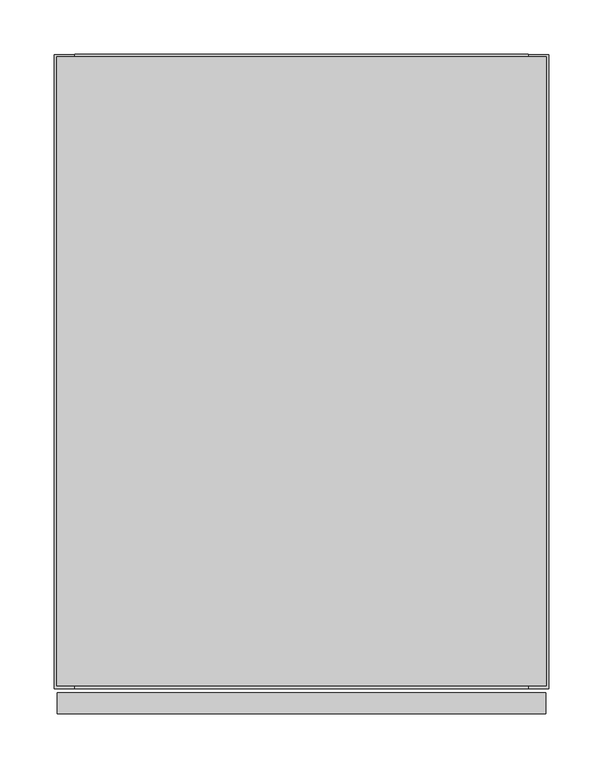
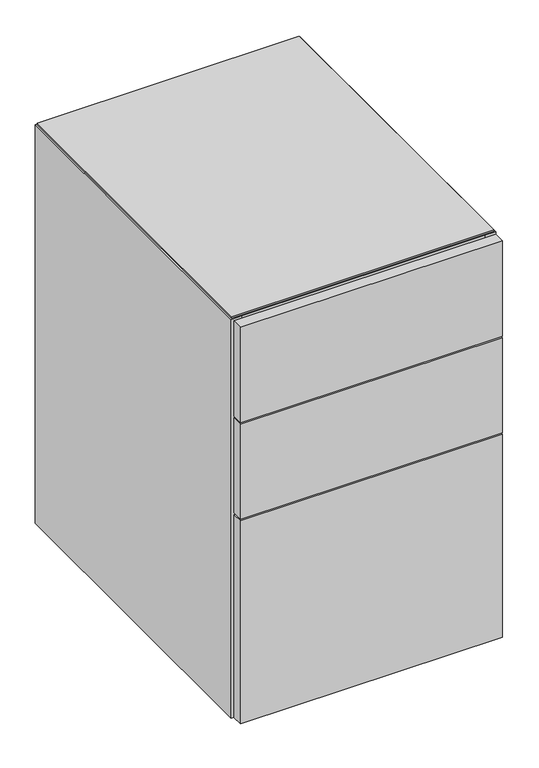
"""IFC4 building model written with IfcOpenShell, lengths in millimetres: furniture geometry, Geiger_GeigerOneCasegoods_LowStorage2Box1File : Vertical Veneer 18Wx24Dx28.75H."""

from ifc_helpers import new_model, si_unit, point, frame, origin, place, context, project, spatial, polyline, circle_curve, ellipse_curve, trimmed, outline, extrude, source, transform, mapped, element, save
from ifc_brep_helpers import plane_surface, cylinder_surface, revolved_surface, advanced_brep


def furniture_a1201df7(model_context):
    return source(origin(), model_context, "Body", "SolidModel", [
        extrude(outline(polyline([(19.0, -19.5), (438.2, -19.5), (438.2, -586.4), (19.0, -586.4), (19.0, -19.5)])), frame((0.0, 0.0, 73.2), z_axis=(0.0, 0.0, 1.0), x_axis=(1.0, 0.0, 0.0)), (0.0, 0.0, 1.0), 19.5072),
        extrude(outline(polyline([(3.0, -590.4), (454.2, -590.4), (454.2, -609.6), (3.0, -609.6), (3.0, -590.4)])), frame((0.0, 0.0, 15.7), z_axis=(0.0, 0.0, 1.0), x_axis=(1.0, 0.0, 0.0)), (0.0, 0.0, 1.0), 370.0),
        extrude(outline(polyline([(3.0, -590.4), (454.2, -590.4), (454.2, -609.6), (3.0, -609.6), (3.0, -590.4)])), frame((0.0, 0.0, 388.7), z_axis=(0.0, 0.0, 1.0), x_axis=(1.0, 0.0, 0.0)), (0.0, 0.0, 1.0), 173.0),
        extrude(outline(polyline([(3.0, -590.4), (454.2, -590.4), (454.2, -609.6), (3.0, -609.6), (3.0, -590.4)])), frame((0.0, 0.0, 564.7), z_axis=(0.0, 0.0, 1.0), x_axis=(1.0, 0.0, 0.0)), (0.0, 0.0, 1.0), 174.0),
        extrude(outline(polyline([(19.0, -19.5), (438.2, -19.5), (438.2, -566.9), (19.0, -566.9), (19.0, -19.5)])), frame((0.0, 0.0, 12.7), z_axis=(0.0, 0.0, 1.0), x_axis=(1.0, 0.0, 0.0)), (0.0, 0.0, 1.0), 19.5),
        extrude(outline(polyline([(454.66, -2.54), (454.66, -583.86), (2.54, -583.86), (2.54, -2.54), (454.66, -2.54)])), frame((0.0, 0.0, 739.5), z_axis=(0.0, 0.0, 1.0), x_axis=(1.0, 0.0, 0.0)), (0.0, 0.0, 1.0), 3.2766),
        extrude(outline(polyline([(19.0, -95.7), (438.2, -95.7), (438.2, -586.4), (19.0, -586.4), (19.0, -95.7)])), frame((0.0, 0.0, 720.0), z_axis=(0.0, 0.0, 1.0), x_axis=(1.0, 0.0, 0.0)), (0.0, 0.0, 1.0), 19.5),
        extrude(outline(polyline([(438.2, -19.5), (19.0, -19.5), (19.0, 0.0), (438.2, 0.0), (438.2, -19.5)])), frame((0.0, 0.0, 12.7), z_axis=(0.0, 0.0, 1.0), x_axis=(1.0, 0.0, 0.0)), (0.0, 0.0, 1.0), 726.8),
        extrude(outline(polyline([(19.0, -566.9), (438.2, -566.9), (438.2, -586.4), (19.0, -586.4), (19.0, -566.9)])), frame((0.0, 0.0, 12.7), z_axis=(0.0, 0.0, 1.0), x_axis=(1.0, 0.0, 0.0)), (0.0, 0.0, 1.0), 60.5),
        extrude(outline(polyline([(19.0, -586.4), (0.0, -586.4), (0.0, -0.5), (19.0, -0.5), (19.0, -586.4)])), frame((0.0, 0.0, 12.7), z_axis=(0.0, 0.0, 1.0), x_axis=(1.0, 0.0, 0.0)), (0.0, 0.0, 1.0), 726.8),
        extrude(outline(polyline([(457.2, -586.4), (438.2, -586.4), (438.2, -0.5), (457.2, -0.5), (457.2, -586.4)])), frame((0.0, 0.0, 12.7), z_axis=(0.0, 0.0, 1.0), x_axis=(1.0, 0.0, 0.0)), (0.0, 0.0, 1.0), 726.8),
        advanced_brep(
        [(94.0575663, -528.9165105, 0.0), (71.9424337, -528.9165105, 0.0), (83.0, -528.9165105, 0.0), (94.0575663, -528.9165105, 9.5), (71.9424337, -528.9165105, 9.5), (87.066455, -528.9165105, 9.5), (78.933545, -528.9165105, 9.5), (87.066455, -528.9165105, 12.7), (78.933545, -528.9165105, 12.7), (83.0, -528.9165105, 12.7)],
        [
            (0, 1, circle_curve(frame((83.0, -528.9165105, 0.0), z_axis=(0.0, 0.0, -1.0), x_axis=(-1.0, 0.0, 0.0)), 11.0575663)),
            (1, 2),
            (2, 0),
            (1, 0, circle_curve(frame((83.0, -528.9165105, 0.0), z_axis=(0.0, 0.0, -1.0), x_axis=(-1.0, 0.0, 0.0)), 11.0575663)),
            (0, 3, circle_curve(frame((94.0575663, -528.9165105, 4.75), z_axis=(0.0, -1.0, 0.0), x_axis=(1.0, 0.0, 0.0)), 4.75)),
            (3, 4, circle_curve(frame((83.0, -528.9165105, 9.5), z_axis=(0.0, 0.0, -1.0), x_axis=(-1.0, 0.0, 0.0)), 11.0575663)),
            (4, 1, circle_curve(frame((71.9424337, -528.9165105, 4.75), z_axis=(0.0, -1.0, 0.0), x_axis=(-1.0, 0.0, 0.0)), 4.75)),
            (4, 3, circle_curve(frame((83.0, -528.9165105, 9.5), z_axis=(0.0, 0.0, -1.0), x_axis=(-1.0, 0.0, 0.0)), 11.0575663)),
            (3, 5),
            (5, 6, circle_curve(frame((83.0, -528.9165105, 9.5), z_axis=(0.0, 0.0, -1.0), x_axis=(-1.0, 0.0, 0.0)), 4.066455)),
            (6, 4),
            (6, 5, circle_curve(frame((83.0, -528.9165105, 9.5), z_axis=(0.0, 0.0, -1.0), x_axis=(-1.0, 0.0, 0.0)), 4.066455)),
            (5, 7),
            (7, 8, circle_curve(frame((83.0, -528.9165105, 12.7), z_axis=(0.0, 0.0, -1.0), x_axis=(-1.0, 0.0, 0.0)), 4.066455)),
            (8, 6),
            (8, 7, circle_curve(frame((83.0, -528.9165105, 12.7), z_axis=(0.0, 0.0, -1.0), x_axis=(-1.0, 0.0, 0.0)), 4.066455)),
            (7, 9),
            (9, 8),
        ],
        [
            plane_surface(frame((83.0, -528.9165105, 0.0), z_axis=(0.0, 0.0, -1.0), x_axis=(-1.0, 0.0, 0.0))),
            revolved_surface(trimmed(ellipse_curve(frame((71.9424337, -528.9165105, 4.75), z_axis=(0.0, 1.0, 0.0), x_axis=(-1.0, 0.0, 0.0)), 4.75, 4.75), [point((71.9424337, -528.9165105, 0.0))], [point((71.9424337, -528.9165105, 9.5))], True, "CARTESIAN"), (83.0, -528.9165105, 0.0), (0.0, 0.0, 1.0)),
            plane_surface(frame((83.0, -528.9165105, 9.5), z_axis=(0.0, 0.0, 1.0), x_axis=(-1.0, 0.0, 0.0))),
            cylinder_surface(frame((83.0, -528.9165105, 0.0), z_axis=(0.0, 0.0, 1.0), x_axis=(-1.0, 0.0, 0.0)), 4.066455),
            plane_surface(frame((83.0, -528.9165105, 12.7), z_axis=(0.0, 0.0, 1.0), x_axis=(-1.0, 0.0, 0.0))),
        ],
        [
            (0, [[1, 2, 3]]),
            (0, [[-2, 4, -3]]),
            (1, [[-1, 5, 6, 7]]),
            (1, [[-4, -7, 8, -5]]),
            (2, [[-6, 9, 10, 11]]),
            (2, [[-8, -11, 12, -9]]),
            (3, [[-10, 13, 14, 15]]),
            (3, [[-12, -15, 16, -13]]),
            (4, [[-14, 17, 18]]),
            (4, [[-16, -18, -17]]),
        ],
    ),
        advanced_brep(
        [(94.0575663, -127.0, 0.0), (71.9424337, -127.0, 0.0), (83.0, -127.0, 0.0), (94.0575663, -127.0, 9.5), (71.9424337, -127.0, 9.5), (87.066455, -127.0, 9.5), (78.933545, -127.0, 9.5), (87.066455, -127.0, 12.7), (78.933545, -127.0, 12.7), (83.0, -127.0, 12.7)],
        [
            (0, 1, circle_curve(frame((83.0, -127.0, 0.0), z_axis=(0.0, 0.0, -1.0), x_axis=(-1.0, 0.0, 0.0)), 11.0575663)),
            (1, 2),
            (2, 0),
            (1, 0, circle_curve(frame((83.0, -127.0, 0.0), z_axis=(0.0, 0.0, -1.0), x_axis=(-1.0, 0.0, 0.0)), 11.0575663)),
            (0, 3, circle_curve(frame((94.0575663, -127.0, 4.75), z_axis=(0.0, -1.0, 0.0), x_axis=(1.0, 0.0, 0.0)), 4.75)),
            (3, 4, circle_curve(frame((83.0, -127.0, 9.5), z_axis=(0.0, 0.0, -1.0), x_axis=(-1.0, 0.0, 0.0)), 11.0575663)),
            (4, 1, circle_curve(frame((71.9424337, -127.0, 4.75), z_axis=(0.0, -1.0, 0.0), x_axis=(-1.0, 0.0, 0.0)), 4.75)),
            (4, 3, circle_curve(frame((83.0, -127.0, 9.5), z_axis=(0.0, 0.0, -1.0), x_axis=(-1.0, 0.0, 0.0)), 11.0575663)),
            (3, 5),
            (5, 6, circle_curve(frame((83.0, -127.0, 9.5), z_axis=(0.0, 0.0, -1.0), x_axis=(-1.0, 0.0, 0.0)), 4.066455)),
            (6, 4),
            (6, 5, circle_curve(frame((83.0, -127.0, 9.5), z_axis=(0.0, 0.0, -1.0), x_axis=(-1.0, 0.0, 0.0)), 4.066455)),
            (5, 7),
            (7, 8, circle_curve(frame((83.0, -127.0, 12.7), z_axis=(0.0, 0.0, -1.0), x_axis=(-1.0, 0.0, 0.0)), 4.066455)),
            (8, 6),
            (8, 7, circle_curve(frame((83.0, -127.0, 12.7), z_axis=(0.0, 0.0, -1.0), x_axis=(-1.0, 0.0, 0.0)), 4.066455)),
            (7, 9),
            (9, 8),
        ],
        [
            plane_surface(frame((83.0, -127.0, 0.0), z_axis=(0.0, 0.0, -1.0), x_axis=(-1.0, 0.0, 0.0))),
            revolved_surface(trimmed(ellipse_curve(frame((71.9424337, -127.0, 4.75), z_axis=(0.0, 1.0, 0.0), x_axis=(-1.0, 0.0, 0.0)), 4.75, 4.75), [point((71.9424337, -127.0, 0.0))], [point((71.9424337, -127.0, 9.5))], True, "CARTESIAN"), (83.0, -127.0, 0.0), (0.0, 0.0, 1.0)),
            plane_surface(frame((83.0, -127.0, 9.5), z_axis=(0.0, 0.0, 1.0), x_axis=(-1.0, 0.0, 0.0))),
            cylinder_surface(frame((83.0, -127.0, 0.0), z_axis=(0.0, 0.0, 1.0), x_axis=(-1.0, 0.0, 0.0)), 4.066455),
            plane_surface(frame((83.0, -127.0, 12.7), z_axis=(0.0, 0.0, 1.0), x_axis=(-1.0, 0.0, 0.0))),
        ],
        [
            (0, [[1, 2, 3]]),
            (0, [[-2, 4, -3]]),
            (1, [[-1, 5, 6, 7]]),
            (1, [[-4, -7, 8, -5]]),
            (2, [[-6, 9, 10, 11]]),
            (2, [[-8, -11, 12, -9]]),
            (3, [[-10, 13, 14, 15]]),
            (3, [[-12, -15, 16, -13]]),
            (4, [[-14, 17, 18]]),
            (4, [[-16, -18, -17]]),
        ],
    ),
        advanced_brep(
        [(374.2, -528.9165105, 0.0), (385.2575663, -528.9165105, 0.0), (363.1424337, -528.9165105, 0.0), (385.2575663, -528.9165105, 9.5), (363.1424337, -528.9165105, 9.5), (378.266455, -528.9165105, 9.5), (370.133545, -528.9165105, 9.5), (378.266455, -528.9165105, 12.7), (370.133545, -528.9165105, 12.7), (374.2, -528.9165105, 12.7)],
        [
            (0, 1),
            (1, 2, circle_curve(frame((374.2, -528.9165105, 0.0), z_axis=(0.0, 0.0, -1.0), x_axis=(1.0, 0.0, 0.0)), 11.0575663)),
            (2, 0),
            (2, 1, circle_curve(frame((374.2, -528.9165105, 0.0), z_axis=(0.0, 0.0, -1.0), x_axis=(1.0, 0.0, 0.0)), 11.0575663)),
            (1, 3, circle_curve(frame((385.2575663, -528.9165105, 4.75), z_axis=(0.0, -1.0, 0.0), x_axis=(-1.0, 0.0, 0.0)), 4.75)),
            (3, 4, circle_curve(frame((374.2, -528.9165105, 9.5), z_axis=(0.0, 0.0, -1.0), x_axis=(1.0, 0.0, 0.0)), 11.0575663)),
            (4, 2, circle_curve(frame((363.1424337, -528.9165105, 4.75), z_axis=(0.0, -1.0, 0.0), x_axis=(1.0, 0.0, 0.0)), 4.75)),
            (4, 3, circle_curve(frame((374.2, -528.9165105, 9.5), z_axis=(0.0, 0.0, -1.0), x_axis=(1.0, 0.0, 0.0)), 11.0575663)),
            (3, 5),
            (5, 6, circle_curve(frame((374.2, -528.9165105, 9.5), z_axis=(0.0, 0.0, -1.0), x_axis=(1.0, 0.0, 0.0)), 4.066455)),
            (6, 4),
            (6, 5, circle_curve(frame((374.2, -528.9165105, 9.5), z_axis=(0.0, 0.0, -1.0), x_axis=(1.0, 0.0, 0.0)), 4.066455)),
            (5, 7),
            (7, 8, circle_curve(frame((374.2, -528.9165105, 12.7), z_axis=(0.0, 0.0, -1.0), x_axis=(1.0, 0.0, 0.0)), 4.066455)),
            (8, 6),
            (8, 7, circle_curve(frame((374.2, -528.9165105, 12.7), z_axis=(0.0, 0.0, -1.0), x_axis=(1.0, 0.0, 0.0)), 4.066455)),
            (7, 9),
            (9, 8),
        ],
        [
            plane_surface(frame((374.2, -528.9165105, 0.0), z_axis=(0.0, 0.0, -1.0), x_axis=(1.0, 0.0, 0.0))),
            revolved_surface(trimmed(ellipse_curve(frame((385.2575663, -528.9165105, 4.75), z_axis=(0.0, 1.0, 0.0), x_axis=(-1.0, 0.0, 0.0)), 4.75, 4.75), [point((385.2575663, -528.9165105, 9.5))], [point((385.2575663, -528.9165105, 0.0))], True, "CARTESIAN"), (374.2, -528.9165105, 0.0), (0.0, 0.0, -1.0)),
            plane_surface(frame((374.2, -528.9165105, 9.5), z_axis=(0.0, 0.0, 1.0), x_axis=(1.0, 0.0, 0.0))),
            cylinder_surface(frame((374.2, -528.9165105, 0.0), z_axis=(0.0, 0.0, -1.0), x_axis=(1.0, 0.0, 0.0)), 4.066455),
            plane_surface(frame((374.2, -528.9165105, 12.7), z_axis=(0.0, 0.0, 1.0), x_axis=(1.0, 0.0, 0.0))),
        ],
        [
            (0, [[1, 2, 3]]),
            (0, [[-1, -3, 4]]),
            (1, [[-2, 5, 6, 7]]),
            (1, [[-4, -7, 8, -5]]),
            (2, [[-6, 9, 10, 11]]),
            (2, [[-8, -11, 12, -9]]),
            (3, [[-10, 13, 14, 15]]),
            (3, [[-12, -15, 16, -13]]),
            (4, [[-14, 17, 18]]),
            (4, [[-16, -18, -17]]),
        ],
    ),
        advanced_brep(
        [(374.2, -127.0, 0.0), (385.2575663, -127.0, 0.0), (363.1424337, -127.0, 0.0), (385.2575663, -127.0, 9.5), (363.1424337, -127.0, 9.5), (378.266455, -127.0, 9.5), (370.133545, -127.0, 9.5), (378.266455, -127.0, 12.7), (370.133545, -127.0, 12.7), (374.2, -127.0, 12.7)],
        [
            (0, 1),
            (1, 2, circle_curve(frame((374.2, -127.0, 0.0), z_axis=(0.0, 0.0, -1.0), x_axis=(1.0, 0.0, 0.0)), 11.0575663)),
            (2, 0),
            (2, 1, circle_curve(frame((374.2, -127.0, 0.0), z_axis=(0.0, 0.0, -1.0), x_axis=(1.0, 0.0, 0.0)), 11.0575663)),
            (1, 3, circle_curve(frame((385.2575663, -127.0, 4.75), z_axis=(0.0, -1.0, 0.0), x_axis=(-1.0, 0.0, 0.0)), 4.75)),
            (3, 4, circle_curve(frame((374.2, -127.0, 9.5), z_axis=(0.0, 0.0, -1.0), x_axis=(1.0, 0.0, 0.0)), 11.0575663)),
            (4, 2, circle_curve(frame((363.1424337, -127.0, 4.75), z_axis=(0.0, -1.0, 0.0), x_axis=(1.0, 0.0, 0.0)), 4.75)),
            (4, 3, circle_curve(frame((374.2, -127.0, 9.5), z_axis=(0.0, 0.0, -1.0), x_axis=(1.0, 0.0, 0.0)), 11.0575663)),
            (3, 5),
            (5, 6, circle_curve(frame((374.2, -127.0, 9.5), z_axis=(0.0, 0.0, -1.0), x_axis=(1.0, 0.0, 0.0)), 4.066455)),
            (6, 4),
            (6, 5, circle_curve(frame((374.2, -127.0, 9.5), z_axis=(0.0, 0.0, -1.0), x_axis=(1.0, 0.0, 0.0)), 4.066455)),
            (5, 7),
            (7, 8, circle_curve(frame((374.2, -127.0, 12.7), z_axis=(0.0, 0.0, -1.0), x_axis=(1.0, 0.0, 0.0)), 4.066455)),
            (8, 6),
            (8, 7, circle_curve(frame((374.2, -127.0, 12.7), z_axis=(0.0, 0.0, -1.0), x_axis=(1.0, 0.0, 0.0)), 4.066455)),
            (7, 9),
            (9, 8),
        ],
        [
            plane_surface(frame((374.2, -127.0, 0.0), z_axis=(0.0, 0.0, -1.0), x_axis=(1.0, 0.0, 0.0))),
            revolved_surface(trimmed(ellipse_curve(frame((385.2575663, -127.0, 4.75), z_axis=(0.0, 1.0, 0.0), x_axis=(-1.0, 0.0, 0.0)), 4.75, 4.75), [point((385.2575663, -127.0, 9.5))], [point((385.2575663, -127.0, 0.0))], True, "CARTESIAN"), (374.2, -127.0, 0.0), (0.0, 0.0, -1.0)),
            plane_surface(frame((374.2, -127.0, 9.5), z_axis=(0.0, 0.0, 1.0), x_axis=(1.0, 0.0, 0.0))),
            cylinder_surface(frame((374.2, -127.0, 0.0), z_axis=(0.0, 0.0, -1.0), x_axis=(1.0, 0.0, 0.0)), 4.066455),
            plane_surface(frame((374.2, -127.0, 12.7), z_axis=(0.0, 0.0, 1.0), x_axis=(1.0, 0.0, 0.0))),
        ],
        [
            (0, [[1, 2, 3]]),
            (0, [[-1, -3, 4]]),
            (1, [[-2, 5, 6, 7]]),
            (1, [[-4, -7, 8, -5]]),
            (2, [[-6, 9, 10, 11]]),
            (2, [[-8, -11, 12, -9]]),
            (3, [[-10, 13, 14, 15]]),
            (3, [[-12, -15, 16, -13]]),
            (4, [[-14, 17, 18]]),
            (4, [[-16, -18, -17]]),
        ],
    ),
    ])


if __name__ == "__main__":
    model = new_model("IFC4")
    model_context = context("Model", 3, world=origin())
    ifc_project = project(units=[si_unit("LENGTHUNIT", "METRE", prefix="MILLI")], contexts=[model_context])
    site = spatial("IfcSite", under=ifc_project)
    building = spatial("IfcBuilding", under=site)
    placement = place(None, origin())
    furniture_shape = furniture_a1201df7(model_context)
    element("IfcFurniture", 1, ObjectType="Geiger_GeigerOneCasegoods_LowStorage2Box1File : Vertical Veneer 18Wx24Dx28.75H", at=placement, inside=building, context=model_context, shape_type="MappedRepresentation", body=[
        mapped(furniture_shape, transform((0.0, 0.0, 0.0), x_axis=(1.0, 0.0, 0.0), y_axis=(0.0, 1.0, 0.0), z_axis=(0.0, 0.0, 1.0))),
    ])
    save(model, "model.ifc")
